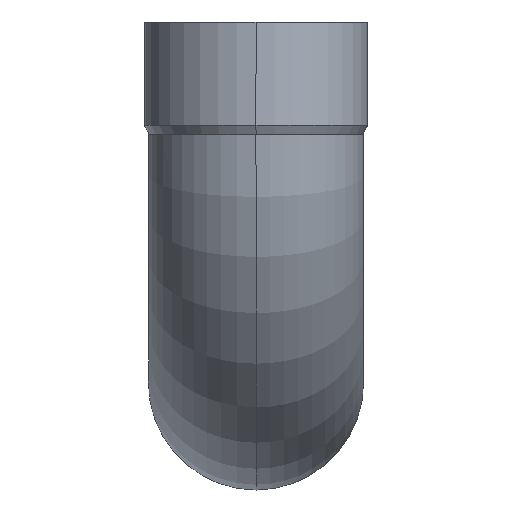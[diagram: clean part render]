
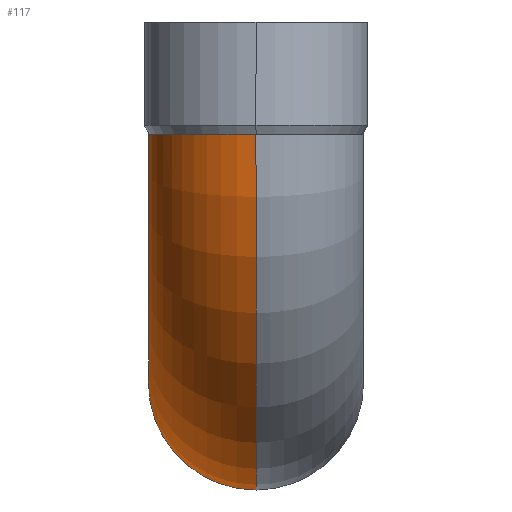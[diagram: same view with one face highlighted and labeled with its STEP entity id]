
A CAD part, left-side view. The second image highlights one B-rep face of the part: STEP entity #117.
In plain terms, the highlighted toroidal (fillet/blend) face has major radius 129.6 mm and minor radius 54 mm.
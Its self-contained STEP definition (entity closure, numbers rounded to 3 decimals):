
#44=CARTESIAN_POINT('',(22.035,0.,0.0));
#45=DIRECTION('',(0.0,-1.0,0.0));
#46=DIRECTION('',(0.0,0.0,-1.0));
#47=AXIS2_PLACEMENT_3D('',#44,#45,#46);
#48=TOROIDAL_SURFACE('',#47,129.6,54.0);
#49=CARTESIAN_POINT('',(-161.494,0.,-5.1));
#50=VERTEX_POINT('',#49);
#51=CARTESIAN_POINT('',(22.035,0.,-183.6));
#52=VERTEX_POINT('',#51);
#53=CARTESIAN_POINT('',(22.035,0.,0.0));
#54=DIRECTION('',(0.0,-1.0,0.0));
#55=DIRECTION('',(0.0,0.0,-1.0));
#56=AXIS2_PLACEMENT_3D('',#53,#54,#55);
#57=CIRCLE('',#56,183.6);
#58=EDGE_CURVE('',#50,#52,#57,.T.);
#59=ORIENTED_EDGE('',*,*,#58,.F.);
#60=CARTESIAN_POINT('',(-53.393,0.,-5.1));
#61=VERTEX_POINT('',#60);
#62=CARTESIAN_POINT('',(-161.494,0.,-5.1));
#63=CARTESIAN_POINT('',(-161.494,3.332,-5.1));
#64=CARTESIAN_POINT('',(-161.165,6.97,-5.1));
#65=CARTESIAN_POINT('',(-159.748,14.096,-5.1));
#66=CARTESIAN_POINT('',(-158.659,17.583,-5.1));
#67=CARTESIAN_POINT('',(-156.108,23.74,-5.1));
#68=CARTESIAN_POINT('',(-154.411,26.976,-5.1));
#69=CARTESIAN_POINT('',(-150.373,33.018,-5.1));
#70=CARTESIAN_POINT('',(-148.032,35.824,-5.1));
#71=CARTESIAN_POINT('',(-143.318,40.536,-5.1));
#72=CARTESIAN_POINT('',(-140.511,42.878,-5.1));
#73=CARTESIAN_POINT('',(-134.466,46.916,-5.1));
#74=CARTESIAN_POINT('',(-131.228,48.612,-5.1));
#75=CARTESIAN_POINT('',(-125.067,51.163,-5.1));
#76=CARTESIAN_POINT('',(-121.576,52.253,-5.1));
#77=CARTESIAN_POINT('',(-114.442,53.671,-5.1));
#78=CARTESIAN_POINT('',(-110.8,54.,-5.1));
#79=CARTESIAN_POINT('',(-104.128,54.,-5.1));
#80=CARTESIAN_POINT('',(-100.485,53.671,-5.1));
#81=CARTESIAN_POINT('',(-93.349,52.252,-5.1));
#82=CARTESIAN_POINT('',(-89.857,51.163,-5.1));
#83=CARTESIAN_POINT('',(-83.691,48.611,-5.1));
#84=CARTESIAN_POINT('',(-80.451,46.914,-5.1));
#85=CARTESIAN_POINT('',(-74.399,42.874,-5.1));
#86=CARTESIAN_POINT('',(-71.589,40.532,-5.1));
#87=CARTESIAN_POINT('',(-66.87,35.818,-5.1));
#88=CARTESIAN_POINT('',(-64.526,33.012,-5.1));
#89=CARTESIAN_POINT('',(-60.483,26.969,-5.1));
#90=CARTESIAN_POINT('',(-58.784,23.731,-5.1));
#91=CARTESIAN_POINT('',(-56.231,17.576,-5.1));
#92=CARTESIAN_POINT('',(-55.141,14.09,-5.1));
#93=CARTESIAN_POINT('',(-53.722,6.967,-5.1));
#94=CARTESIAN_POINT('',(-53.393,3.33,-5.1));
#95=CARTESIAN_POINT('',(-53.393,0.,-5.1));
#96=B_SPLINE_CURVE_WITH_KNOTS('',3,(#62,#63,#64,#65,#66,#67,#68,#69,#70,#71,#72,#73,#74,#75,#76,#77,#78,#79,#80,#81,#82,#83,#84,#85,#86,#87,#88,#89,#90,#91,#92,#93,#94,#95),.UNSPECIFIED.,.F.,.U.,(4,2,2,2,2,2,2,2,2,2,2,2,2,2,2,2,4),(0.0,0.999,1.999,2.999,3.998,4.998,5.998,6.999,7.999,9.,10.001,11.002,12.003,13.003,14.003,15.002,16.002),.UNSPECIFIED.);
#97=EDGE_CURVE('',#50,#61,#96,.T.);
#98=ORIENTED_EDGE('',*,*,#97,.T.);
#99=CARTESIAN_POINT('',(22.035,0.,-75.6));
#100=VERTEX_POINT('',#99);
#101=CARTESIAN_POINT('',(22.035,0.,0.0));
#102=DIRECTION('',(0.0,1.0,0.0));
#103=DIRECTION('',(0.0,0.0,-1.0));
#104=AXIS2_PLACEMENT_3D('',#101,#102,#103);
#105=CIRCLE('',#104,75.6);
#106=EDGE_CURVE('',#100,#61,#105,.T.);
#107=ORIENTED_EDGE('',*,*,#106,.F.);
#108=CARTESIAN_POINT('',(22.035,0.,-129.6));
#109=DIRECTION('',(-1.0,0.0,0.0));
#110=DIRECTION('',(0.0,0.0,-1.0));
#111=AXIS2_PLACEMENT_3D('',#108,#109,#110);
#112=CIRCLE('',#111,54.0);
#113=EDGE_CURVE('',#100,#52,#112,.T.);
#114=ORIENTED_EDGE('',*,*,#113,.T.);
#115=EDGE_LOOP('',(#59,#98,#107,#114));
#116=FACE_OUTER_BOUND('',#115,.T.);
#117=ADVANCED_FACE('',(#116),#48,.T.);
